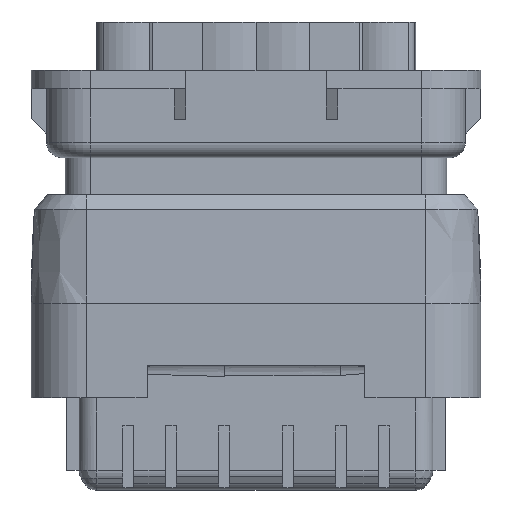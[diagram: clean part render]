
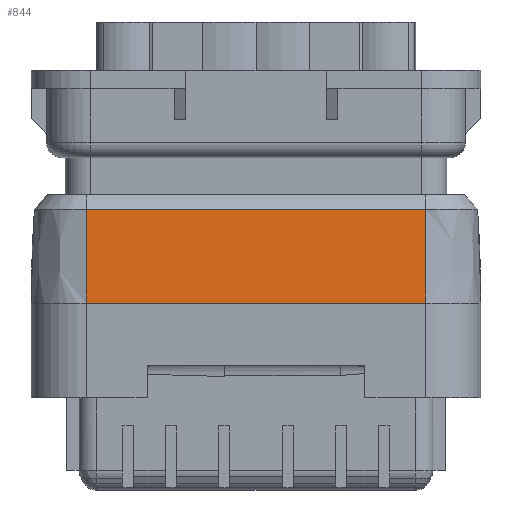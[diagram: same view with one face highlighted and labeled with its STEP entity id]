
A CAD part, front view. The second image highlights one B-rep face of the part: STEP entity #844.
In plain terms, the highlighted cylindrical face has radius 110 mm (diameter 220 mm), a partial arc.
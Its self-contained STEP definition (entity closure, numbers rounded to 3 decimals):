
#261=CYLINDRICAL_SURFACE('',#11886,110.);
#844=ADVANCED_FACE('',(#1826),#261,.T.);
#1826=FACE_OUTER_BOUND('',#2410,.T.);
#2410=EDGE_LOOP('',(#6261,#6262,#6263,#6264));
#3141=LINE('',#17566,#4366);
#3188=LINE('',#17677,#4413);
#4366=VECTOR('',#13381,1.);
#4413=VECTOR('',#13460,1.);
#6261=ORIENTED_EDGE('',*,*,#10317,.F.);
#6262=ORIENTED_EDGE('',*,*,#10268,.T.);
#6263=ORIENTED_EDGE('',*,*,#10318,.T.);
#6264=ORIENTED_EDGE('',*,*,#10319,.T.);
#8982=VERTEX_POINT('',#17557);
#8985=VERTEX_POINT('',#17565);
#9024=VERTEX_POINT('',#17671);
#9025=VERTEX_POINT('',#17676);
#10268=EDGE_CURVE('',#8982,#8985,#3141,.T.);
#10317=EDGE_CURVE('',#8982,#9024,#11527,.T.);
#10318=EDGE_CURVE('',#8985,#9025,#11528,.T.);
#10319=EDGE_CURVE('',#9025,#9024,#3188,.T.);
#11527=B_SPLINE_CURVE_WITH_KNOTS('',3,(#17667,#17668,#17669,#17670),
 .UNSPECIFIED.,.F.,.F.,(4,4),(0.,1.),.UNSPECIFIED.);
#11528=B_SPLINE_CURVE_WITH_KNOTS('',3,(#17672,#17673,#17674,#17675),
 .UNSPECIFIED.,.F.,.F.,(4,4),(0.,1.),.UNSPECIFIED.);
#11886=AXIS2_PLACEMENT_3D('',#17678,#13461,#13462);
#13381=DIRECTION('',(-1.,0.,0.));
#13460=DIRECTION('',(1.,0.,0.));
#13461=DIRECTION('',(1.,0.,0.));
#13462=DIRECTION('',(0.,-0.998,0.065));
#17557=CARTESIAN_POINT('',(13.25,-7.806,14.717));
#17565=CARTESIAN_POINT('',(-13.25,-7.806,14.717));
#17566=CARTESIAN_POINT('',(-13.3,-7.806,14.717));
#17667=CARTESIAN_POINT('',(13.25,-7.806,14.717));
#17668=CARTESIAN_POINT('',(13.25,-7.969,12.281));
#17669=CARTESIAN_POINT('',(13.25,-8.05,9.841));
#17670=CARTESIAN_POINT('',(13.25,-8.05,7.4));
#17671=CARTESIAN_POINT('',(13.25,-8.05,7.4));
#17672=CARTESIAN_POINT('',(-13.25,-7.806,14.717));
#17673=CARTESIAN_POINT('',(-13.25,-7.969,12.281));
#17674=CARTESIAN_POINT('',(-13.25,-8.05,9.841));
#17675=CARTESIAN_POINT('',(-13.25,-8.05,7.4));
#17676=CARTESIAN_POINT('',(-13.25,-8.05,7.4));
#17677=CARTESIAN_POINT('',(-13.25,-8.05,7.4));
#17678=CARTESIAN_POINT('',(-13.3,101.95,7.4));
